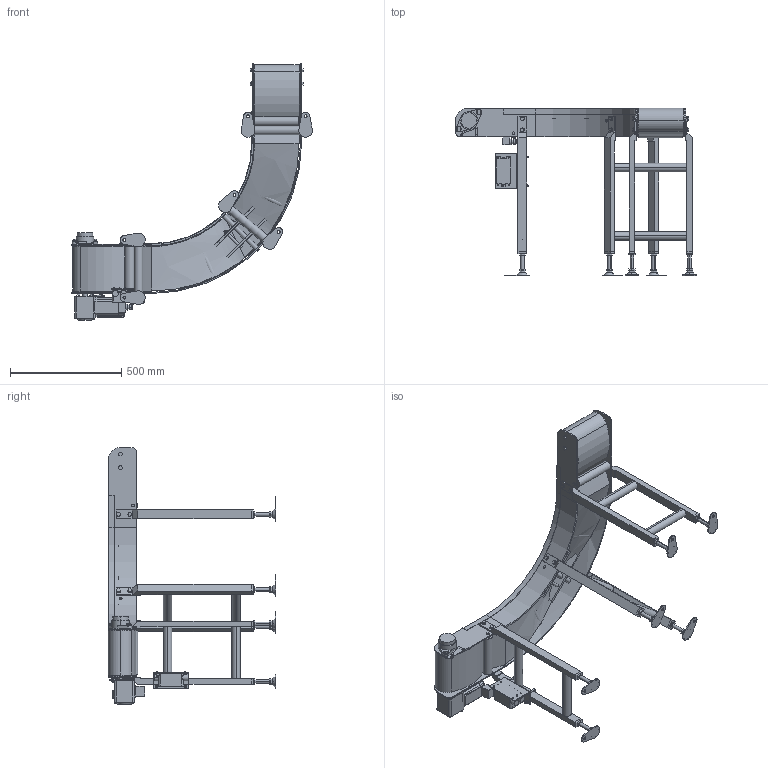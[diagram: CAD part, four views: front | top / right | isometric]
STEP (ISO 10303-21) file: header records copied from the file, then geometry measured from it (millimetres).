
FILE_DESCRIPTION (( 'STEP AP214' ), '1' );
FILE_NAME ('FPC1-309-200-90°-L-K-20.STEP', '2024-04-15T09:03:33', ( '' ), ( '' ), 'SwSTEP 2.0', 'SolidWorks 2017', '' );
FILE_SCHEMA (( 'AUTOMOTIVE_DESIGN' ));
Length unit declared in the file: millimetre
Products named in the file (1): FPC1-309-200-90°-L-K-20
Bounding box: 1080.99 x 751.5 x 1153 mm (x, y, z)
Volume: 41279348.6 mm3; surface area: 3166574.4 mm2
Topology: 52 solids, 52 shells, 1672 faces, 3942 edges, 2551 vertices
Faces by surface type: plane 1032, cylinder 533, cone 72, torus 27, sphere 4, bspline 4
Entity records: 53702 total; most frequent: CARTESIAN_POINT 13502, DIRECTION 8450, ORIENTED_EDGE 7876, EDGE_CURVE 3938, AXIS2_PLACEMENT_3D 2950, VERTEX_POINT 2551, LINE 2550, VECTOR 2550
